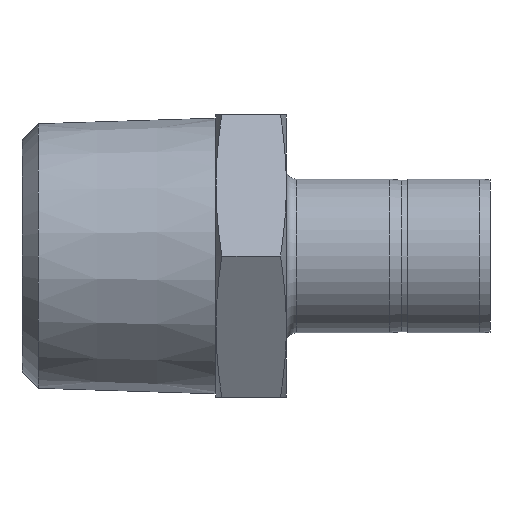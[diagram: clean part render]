
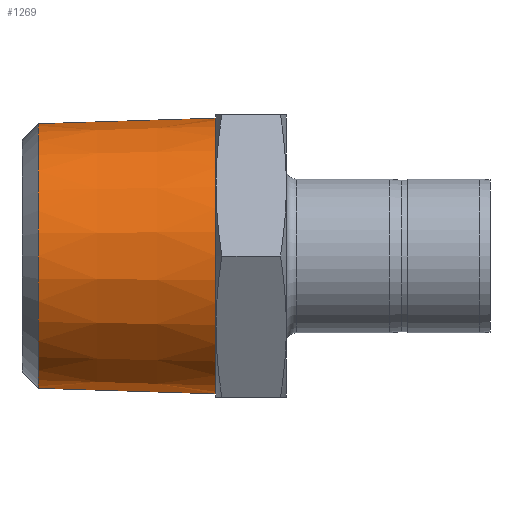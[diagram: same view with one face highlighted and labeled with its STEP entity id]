
A CAD part, front view. The second image highlights one B-rep face of the part: STEP entity #1269.
In plain terms, the highlighted conical face has half-angle 1.8 degrees and reference radius 16.614 mm.
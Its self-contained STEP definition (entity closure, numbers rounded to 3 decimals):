
#955 = CARTESIAN_POINT ( 'NONE',  ( -22.001, 0., -16.358 ) ) ;
#957 = CARTESIAN_POINT ( 'NONE',  ( -22.001, 0., 16.358 ) ) ;
#966 = DIRECTION ( 'NONE',  ( 0., 0., 1. ) ) ;
#967 = DIRECTION ( 'NONE',  ( 1., 0., 0. ) ) ;
#968 = CARTESIAN_POINT ( 'NONE',  ( -13.84, 0., 0. ) ) ;
#969 = AXIS2_PLACEMENT_3D ( 'NONE', #968, #967, #966 ) ;
#970 = CONICAL_SURFACE ( 'NONE', #969, 16.614, 0.031 ) ;
#972 = FACE_OUTER_BOUND ( 'NONE', #1271, .T. ) ;
#993 = DIRECTION ( 'NONE',  ( 1., 0., 0.031 ) ) ;
#994 = VECTOR ( 'NONE', #993, 1000. ) ;
#995 = CARTESIAN_POINT ( 'NONE',  ( -13.84, 0., 16.614 ) ) ;
#996 = LINE ( 'NONE', #995, #994 ) ;
#997 = CARTESIAN_POINT ( 'NONE',  ( 0., 0., 17.049 ) ) ;
#998 = DIRECTION ( 'NONE',  ( 0., 0., -1. ) ) ;
#999 = DIRECTION ( 'NONE',  ( -1., 0., 0. ) ) ;
#1000 = CARTESIAN_POINT ( 'NONE',  ( 0., 0., 0. ) ) ;
#1001 = AXIS2_PLACEMENT_3D ( 'NONE', #1000, #999, #998 ) ;
#1002 = CIRCLE ( 'NONE', #1001, 17.049 ) ;
#1003 = CARTESIAN_POINT ( 'NONE',  ( 0., 0., -17.049 ) ) ;
#1004 = DIRECTION ( 'NONE',  ( 1., 0., -0.031 ) ) ;
#1005 = VECTOR ( 'NONE', #1004, 1000. ) ;
#1006 = CARTESIAN_POINT ( 'NONE',  ( -13.84, 0., -16.614 ) ) ;
#1007 = LINE ( 'NONE', #1006, #1005 ) ;
#1039 = DIRECTION ( 'NONE',  ( 0., 0., -1. ) ) ;
#1040 = DIRECTION ( 'NONE',  ( 1., 0., 0. ) ) ;
#1041 = CARTESIAN_POINT ( 'NONE',  ( -22.001, 0., 0. ) ) ;
#1042 = AXIS2_PLACEMENT_3D ( 'NONE', #1041, #1040, #1039 ) ;
#1043 = CIRCLE ( 'NONE', #1042, 16.358 ) ;
#1248 = ORIENTED_EDGE ( 'NONE', *, *, #1249, .T. ) ;
#1249 = EDGE_CURVE ( 'NONE', #1277, #1279, #1043, .T. ) ;
#1250 = ORIENTED_EDGE ( 'NONE', *, *, #1251, .T. ) ;
#1251 = EDGE_CURVE ( 'NONE', #1279, #1252, #1007, .T. ) ;
#1252 = VERTEX_POINT ( 'NONE', #1003 ) ;
#1253 = ORIENTED_EDGE ( 'NONE', *, *, #1254, .T. ) ;
#1254 = EDGE_CURVE ( 'NONE', #1252, #1255, #1002, .T. ) ;
#1255 = VERTEX_POINT ( 'NONE', #997 ) ;
#1256 = ORIENTED_EDGE ( 'NONE', *, *, #1257, .F. ) ;
#1257 = EDGE_CURVE ( 'NONE', #1277, #1255, #996, .T. ) ;
#1269 = ADVANCED_FACE ( 'NONE', ( #972 ), #970, .T. ) ;
#1271 = EDGE_LOOP ( 'NONE', ( #1248, #1250, #1253, #1256 ) ) ;
#1277 = VERTEX_POINT ( 'NONE', #957 ) ;
#1279 = VERTEX_POINT ( 'NONE', #955 ) ;
